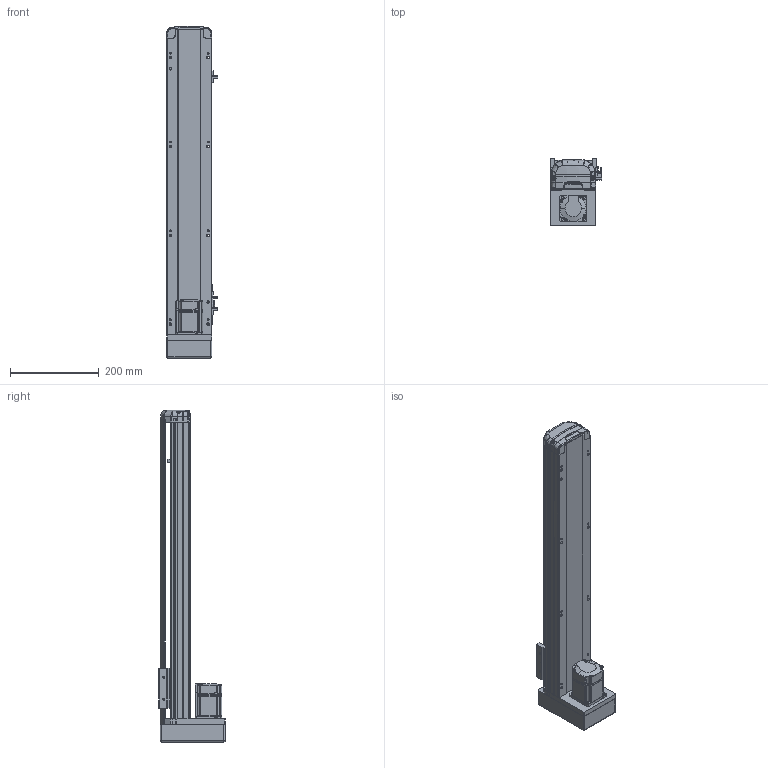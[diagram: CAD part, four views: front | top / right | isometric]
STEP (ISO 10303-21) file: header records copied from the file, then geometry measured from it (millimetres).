
FILE_DESCRIPTION (( 'STEP AP214' ), '1' );
FILE_NAME ('RTH10-XX-500-M-M20-C4.STEP', '2025-10-25T04:49:46', ( 'Microsoft' ), ( 'Microsoft' ), 'SwSTEP 2.0', 'SolidWorks 2018', '' );
FILE_SCHEMA (( 'AUTOMOTIVE_DESIGN' ));
Length unit declared in the file: millimetre
Products named in the file (10): N_OMRON EE-SX672 传感器^RTH10-XX-XX-M-M20-C4; RTH10-XX-500-M-M20-C4; N_RTH12-M-011P-臏倰第菁釱^RTH10-XX-XX-M-M20-C4; N_RTH12-GY-004-賑釱^RTH10-XX-XX-M-M20-C4; N_RTH12-M-018-裔赽^RTH10-XX-XX-M-M20-C4; N_RTH12-M-008-萇儂啣^RTH10-XX-XX-M-M20-C4; N_200W-1^RTH10-XX-XX-M-M20-C4; N_RTH12-M-007P-奻裔^RTH10-XX-XX-M-M20-C4; N_RTH13-L-012覜茼え俋离^RTH10-XX-XX-M-M20-C4; N_RTH12-GY-001P^RTH10-XX-XX-M-M20-C4
Assembly tree (11 placements, depth 2):
  RTH10-XX-500-M-M20-C4
    N_RTH12-M-011P-臏倰第菁釱^RTH10-XX-XX-M-M20-C4
    N_RTH13-L-012覜茼え俋离^RTH10-XX-XX-M-M20-C4
    N_OMRON EE-SX672 传感器^RTH10-XX-XX-M-M20-C4  x3
    N_200W-1^RTH10-XX-XX-M-M20-C4
    N_RTH12-M-007P-奻裔^RTH10-XX-XX-M-M20-C4
    N_RTH12-M-008-萇儂啣^RTH10-XX-XX-M-M20-C4
    N_RTH12-M-018-裔赽^RTH10-XX-XX-M-M20-C4
    N_RTH12-GY-004-賑釱^RTH10-XX-XX-M-M20-C4
    N_RTH12-GY-001P^RTH10-XX-XX-M-M20-C4
Bounding box: 116.5 x 149 x 747.14 mm (x, y, z)
Volume: 3710472.8 mm3; surface area: 553137.6 mm2
Topology: 10 solids, 12 shells, 1969 faces, 5482 edges, 3599 vertices
Faces by surface type: plane 987, cylinder 475, bspline 472, cone 29, sphere 4, torus 2
Entity records: 59120 total; most frequent: CARTESIAN_POINT 23227, ORIENTED_EDGE 8036, DIRECTION 6212, EDGE_CURVE 4024, VERTEX_POINT 2643, LINE 2172, VECTOR 2172, AXIS2_PLACEMENT_3D 2020
